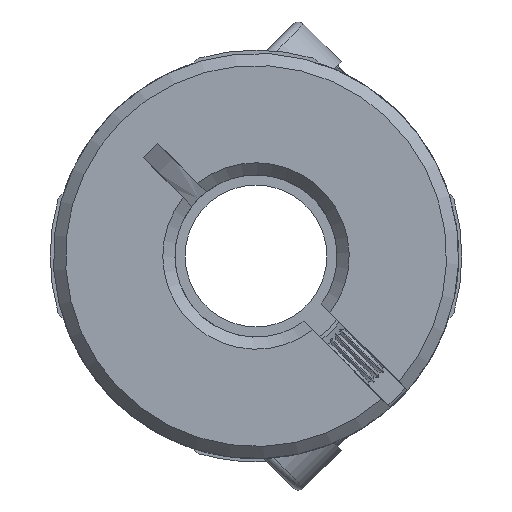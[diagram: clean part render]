
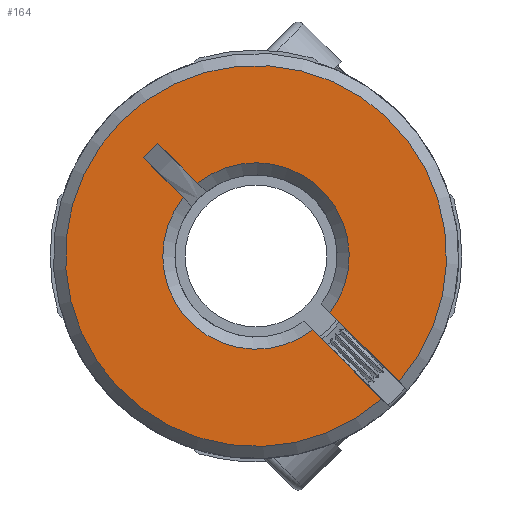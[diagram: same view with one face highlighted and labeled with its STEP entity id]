
A CAD part, front view. The second image highlights one B-rep face of the part: STEP entity #164.
In plain terms, the highlighted planar face has unit normal (0, -1, 0).
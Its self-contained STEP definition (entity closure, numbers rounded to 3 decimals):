
#164 = ADVANCED_FACE ( 'NONE', ( #12070 ), #11446, .F. ) ;
#281 = ORIENTED_EDGE ( 'NONE', *, *, #4346, .F. ) ;
#380 = DIRECTION ( 'NONE',  ( 0., -1., 0. ) ) ;
#416 = VECTOR ( 'NONE', #2531, 1000. ) ;
#681 = DIRECTION ( 'NONE',  ( 0.707, 0., -0.707 ) ) ;
#1388 = LINE ( 'NONE', #12938, #2180 ) ;
#1481 = CARTESIAN_POINT ( 'NONE',  ( 342.528, -12.6, 364.579 ) ) ;
#1636 = AXIS2_PLACEMENT_3D ( 'NONE', #12612, #5363, #6567 ) ;
#1657 = VERTEX_POINT ( 'NONE', #5180 ) ;
#1741 = DIRECTION ( 'NONE',  ( 0.707, 0., -0.707 ) ) ;
#2180 = VECTOR ( 'NONE', #2906, 1000. ) ;
#2272 = EDGE_LOOP ( 'NONE', ( #6648, #4744, #9507, #4775, #281, #8083, #5319, #9602 ) ) ;
#2460 = DIRECTION ( 'NONE',  ( 0.707, 0., -0.707 ) ) ;
#2531 = DIRECTION ( 'NONE',  ( -0.707, 0., -0.707 ) ) ;
#2573 = LINE ( 'NONE', #6710, #11919 ) ;
#2716 = CARTESIAN_POINT ( 'NONE',  ( 4.95, -12.6, -5.657 ) ) ;
#2906 = DIRECTION ( 'NONE',  ( -0.707, 0., 0.707 ) ) ;
#3085 = EDGE_CURVE ( 'NONE', #10532, #6971, #5949, .T. ) ;
#4346 = EDGE_CURVE ( 'NONE', #7232, #11656, #2573, .T. ) ;
#4617 = DIRECTION ( 'NONE',  ( 0.707, 0., -0.707 ) ) ;
#4744 = ORIENTED_EDGE ( 'NONE', *, *, #6488, .T. ) ;
#4775 = ORIENTED_EDGE ( 'NONE', *, *, #11421, .T. ) ;
#5180 = CARTESIAN_POINT ( 'NONE',  ( -3.587, -12.6, 2.88 ) ) ;
#5237 = VECTOR ( 'NONE', #1741, 1000. ) ;
#5319 = ORIENTED_EDGE ( 'NONE', *, *, #12829, .F. ) ;
#5363 = DIRECTION ( 'NONE',  ( 0., 1., 0. ) ) ;
#5375 = DIRECTION ( 'NONE',  ( 0., 1., 0. ) ) ;
#5588 = CARTESIAN_POINT ( 'NONE',  ( 0., -12.6, 0. ) ) ;
#5736 = CARTESIAN_POINT ( 'NONE',  ( 2.801, -12.6, -3.649 ) ) ;
#5949 = LINE ( 'NONE', #12848, #416 ) ;
#6133 = CARTESIAN_POINT ( 'NONE',  ( 3.649, -12.6, -2.801 ) ) ;
#6488 = EDGE_CURVE ( 'NONE', #12005, #11248, #11559, .T. ) ;
#6567 = DIRECTION ( 'NONE',  ( 0.707, 0., -0.707 ) ) ;
#6648 = ORIENTED_EDGE ( 'NONE', *, *, #12579, .T. ) ;
#6702 = CIRCLE ( 'NONE', #6778, 9.4 ) ;
#6710 = CARTESIAN_POINT ( 'NONE',  ( 2.372, -12.6, -3.221 ) ) ;
#6778 = AXIS2_PLACEMENT_3D ( 'NONE', #5588, #380, #12531 ) ;
#6971 = VERTEX_POINT ( 'NONE', #7357 ) ;
#7069 = CIRCLE ( 'NONE', #11826, 4.6 ) ;
#7232 = VERTEX_POINT ( 'NONE', #5736 ) ;
#7357 = CARTESIAN_POINT ( 'NONE',  ( -5.549, -12.6, 4.842 ) ) ;
#7640 = VECTOR ( 'NONE', #4617, 1000. ) ;
#7710 = CARTESIAN_POINT ( 'NONE',  ( -4.842, -12.6, 5.549 ) ) ;
#8083 = ORIENTED_EDGE ( 'NONE', *, *, #9346, .T. ) ;
#8088 = CARTESIAN_POINT ( 'NONE',  ( 7.058, -12.6, -6.209 ) ) ;
#8130 = CARTESIAN_POINT ( 'NONE',  ( 0., -12.6, 0. ) ) ;
#8539 = CARTESIAN_POINT ( 'NONE',  ( 5.657, -12.6, -4.95 ) ) ;
#8772 = EDGE_CURVE ( 'NONE', #12946, #11248, #1388, .T. ) ;
#9218 = LINE ( 'NONE', #2716, #5237 ) ;
#9346 = EDGE_CURVE ( 'NONE', #7232, #1657, #7069, .T. ) ;
#9507 = ORIENTED_EDGE ( 'NONE', *, *, #8772, .F. ) ;
#9602 = ORIENTED_EDGE ( 'NONE', *, *, #3085, .F. ) ;
#10140 = DIRECTION ( 'NONE',  ( 0.707, 0., -0.707 ) ) ;
#10532 = VERTEX_POINT ( 'NONE', #7710 ) ;
#10815 = CARTESIAN_POINT ( 'NONE',  ( 6.209, -12.6, -7.058 ) ) ;
#10860 = AXIS2_PLACEMENT_3D ( 'NONE', #1481, #5375, #2460 ) ;
#11248 = VERTEX_POINT ( 'NONE', #6133 ) ;
#11421 = EDGE_CURVE ( 'NONE', #12946, #11656, #6702, .T. ) ;
#11426 = LINE ( 'NONE', #8539, #7640 ) ;
#11446 = PLANE ( 'NONE',  #10860 ) ;
#11559 = CIRCLE ( 'NONE', #1636, 4.6 ) ;
#11656 = VERTEX_POINT ( 'NONE', #10815 ) ;
#11826 = AXIS2_PLACEMENT_3D ( 'NONE', #8130, #11994, #10140 ) ;
#11919 = VECTOR ( 'NONE', #681, 1000. ) ;
#11994 = DIRECTION ( 'NONE',  ( 0., 1., 0. ) ) ;
#12005 = VERTEX_POINT ( 'NONE', #12689 ) ;
#12070 = FACE_OUTER_BOUND ( 'NONE', #2272, .T. ) ;
#12531 = DIRECTION ( 'NONE',  ( 0.707, 0., -0.707 ) ) ;
#12579 = EDGE_CURVE ( 'NONE', #10532, #12005, #11426, .T. ) ;
#12612 = CARTESIAN_POINT ( 'NONE',  ( 0., -12.6, 0. ) ) ;
#12689 = CARTESIAN_POINT ( 'NONE',  ( -2.88, -12.6, 3.587 ) ) ;
#12829 = EDGE_CURVE ( 'NONE', #6971, #1657, #9218, .T. ) ;
#12848 = CARTESIAN_POINT ( 'NONE',  ( -4.842, -12.6, 5.549 ) ) ;
#12938 = CARTESIAN_POINT ( 'NONE',  ( 3.221, -12.6, -2.372 ) ) ;
#12946 = VERTEX_POINT ( 'NONE', #8088 ) ;
